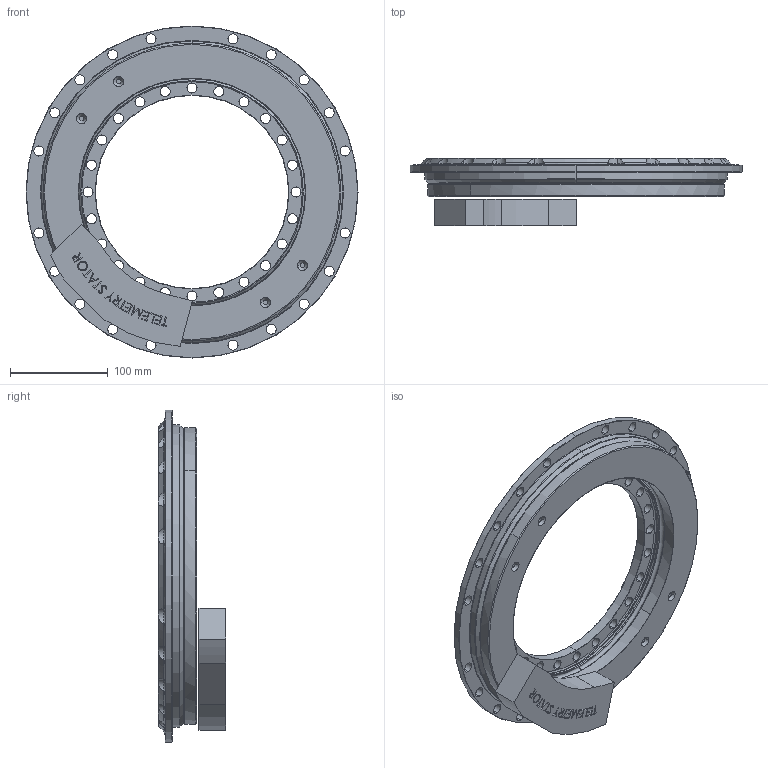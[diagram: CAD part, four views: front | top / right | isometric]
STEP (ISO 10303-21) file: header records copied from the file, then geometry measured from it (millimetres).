
FILE_DESCRIPTION (( 'STEP AP214' ), '1' );
FILE_NAME ('LW12.8-60 Telemetry Customer Model.STEP', '2020-03-20T17:44:12', ( '' ), ( '' ), 'SwSTEP 2.0', 'SolidWorks 2019', '' );
FILE_SCHEMA (( 'AUTOMOTIVE_DESIGN' ));
Length unit declared in the file: inch
Products named in the file (1): LW12.8-60 Telemetry Customer Model
Bounding box: 340.36 x 68.96 x 340.36 mm (x, y, z)
Volume: 1431953.7 mm3; surface area: 289074 mm2
Topology: 2 solids, 2 shells, 977 faces, 2702 edges, 1715 vertices
Faces by surface type: cylinder 336, plane 266, torus 169, bspline 113, cone 93
Entity records: 36247 total; most frequent: CARTESIAN_POINT 11918, ORIENTED_EDGE 5300, DIRECTION 4886, EDGE_CURVE 2650, AXIS2_PLACEMENT_3D 1917, VERTEX_POINT 1715, EDGE_LOOP 1113, LINE 1052
